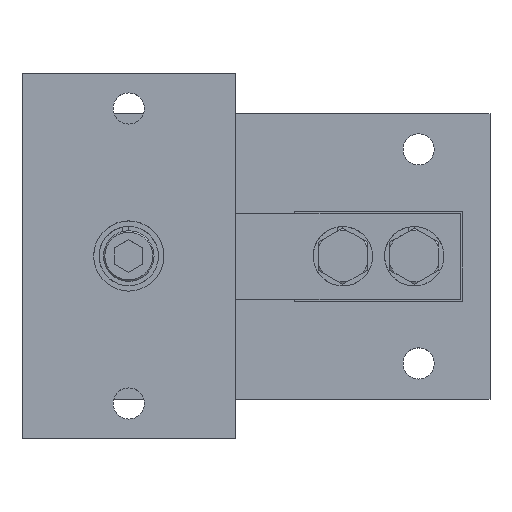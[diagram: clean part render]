
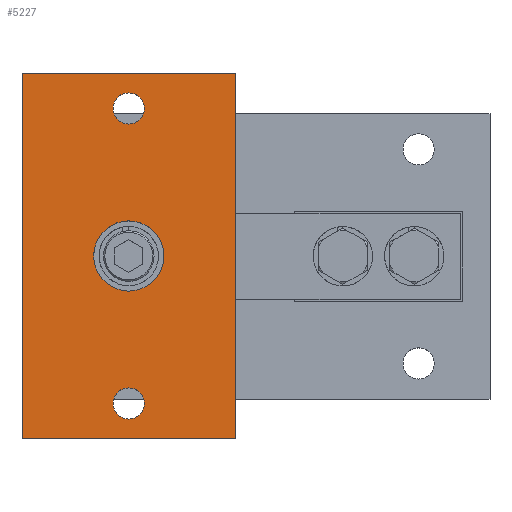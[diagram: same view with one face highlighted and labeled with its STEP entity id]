
A CAD part, top view. The second image highlights one B-rep face of the part: STEP entity #5227.
In plain terms, the highlighted planar face has unit normal (0, 0, 1).
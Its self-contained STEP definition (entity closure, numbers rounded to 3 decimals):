
#4790=DIRECTION('',(-1.,0.,0.));
#4791=VECTOR('',#4790,76.);
#4792=CARTESIAN_POINT('',(-14.37,65.,95.35));
#4793=LINE('',#4792,#4791);
#4794=DIRECTION('',(0.,1.,0.));
#4795=VECTOR('',#4794,130.);
#4796=CARTESIAN_POINT('',(-14.37,-65.,95.35));
#4797=LINE('',#4796,#4795);
#4798=DIRECTION('',(1.,0.,0.));
#4799=VECTOR('',#4798,76.);
#4800=CARTESIAN_POINT('',(-90.37,-65.,95.35));
#4801=LINE('',#4800,#4799);
#4802=DIRECTION('',(0.,-1.,0.));
#4803=VECTOR('',#4802,130.);
#4804=CARTESIAN_POINT('',(-90.37,65.,95.35));
#4805=LINE('',#4804,#4803);
#4806=CARTESIAN_POINT('',(-52.37,0.,95.35));
#4807=DIRECTION('',(0.,0.,1.));
#4808=DIRECTION('',(0.,-1.,0.));
#4809=AXIS2_PLACEMENT_3D('',#4806,#4807,#4808);
#4811=CARTESIAN_POINT('',(-52.37,0.,95.35));
#4812=DIRECTION('',(0.,0.,1.));
#4813=DIRECTION('',(0.,1.,0.));
#4814=AXIS2_PLACEMENT_3D('',#4811,#4812,#4813);
#4816=CARTESIAN_POINT('',(-52.37,52.5,95.35));
#4817=DIRECTION('',(0.,0.,1.));
#4818=DIRECTION('',(0.,-1.,0.));
#4819=AXIS2_PLACEMENT_3D('',#4816,#4817,#4818);
#4821=CARTESIAN_POINT('',(-52.37,52.5,95.35));
#4822=DIRECTION('',(0.,0.,1.));
#4823=DIRECTION('',(0.,1.,0.));
#4824=AXIS2_PLACEMENT_3D('',#4821,#4822,#4823);
#4826=CARTESIAN_POINT('',(-52.37,-52.5,95.35));
#4827=DIRECTION('',(0.,0.,1.));
#4828=DIRECTION('',(0.,-1.,0.));
#4829=AXIS2_PLACEMENT_3D('',#4826,#4827,#4828);
#4831=CARTESIAN_POINT('',(-52.37,-52.5,95.35));
#4832=DIRECTION('',(0.,0.,1.));
#4833=DIRECTION('',(0.,1.,0.));
#4834=AXIS2_PLACEMENT_3D('',#4831,#4832,#4833);
#4922=CARTESIAN_POINT('',(-14.37,65.,95.35));
#4923=CARTESIAN_POINT('',(-90.37,65.,95.35));
#4924=VERTEX_POINT('',#4922);
#4925=VERTEX_POINT('',#4923);
#4926=CARTESIAN_POINT('',(-90.37,-65.,95.35));
#4927=VERTEX_POINT('',#4926);
#4928=CARTESIAN_POINT('',(-14.37,-65.,95.35));
#4929=VERTEX_POINT('',#4928);
#4970=CARTESIAN_POINT('',(-52.37,-12.5,95.35));
#4971=CARTESIAN_POINT('',(-52.37,12.5,95.35));
#4972=VERTEX_POINT('',#4970);
#4973=VERTEX_POINT('',#4971);
#4986=CARTESIAN_POINT('',(-52.37,46.95,95.35));
#4987=CARTESIAN_POINT('',(-52.37,58.05,95.35));
#4988=VERTEX_POINT('',#4986);
#4989=VERTEX_POINT('',#4987);
#4990=CARTESIAN_POINT('',(-52.37,-58.05,95.35));
#4991=CARTESIAN_POINT('',(-52.37,-46.95,95.35));
#4992=VERTEX_POINT('',#4990);
#4993=VERTEX_POINT('',#4991);
#5196=CARTESIAN_POINT('',(-52.37,0.,95.35));
#5197=DIRECTION('',(0.,0.,1.));
#5198=DIRECTION('',(0.,-1.,0.));
#5199=AXIS2_PLACEMENT_3D('',#5196,#5197,#5198);
#5200=PLANE('',#5199);
#5201=ORIENTED_EDGE('',*,*,#5189,.F.);
#5202=ORIENTED_EDGE('',*,*,#5045,.F.);
#5204=ORIENTED_EDGE('',*,*,#5203,.F.);
#5206=ORIENTED_EDGE('',*,*,#5205,.F.);
#5207=EDGE_LOOP('',(#5201,#5202,#5204,#5206));
#5208=FACE_OUTER_BOUND('',#5207,.F.);
#5210=ORIENTED_EDGE('',*,*,#5209,.T.);
#5212=ORIENTED_EDGE('',*,*,#5211,.T.);
#5213=EDGE_LOOP('',(#5210,#5212));
#5214=FACE_BOUND('',#5213,.F.);
#5216=ORIENTED_EDGE('',*,*,#5215,.T.);
#5218=ORIENTED_EDGE('',*,*,#5217,.T.);
#5219=EDGE_LOOP('',(#5216,#5218));
#5220=FACE_BOUND('',#5219,.F.);
#5222=ORIENTED_EDGE('',*,*,#5221,.T.);
#5224=ORIENTED_EDGE('',*,*,#5223,.T.);
#5225=EDGE_LOOP('',(#5222,#5224));
#5226=FACE_BOUND('',#5225,.F.);
#5227=ADVANCED_FACE('',(#5208,#5214,#5220,#5226),#5200,.T.);
#4810=CIRCLE('',#4809,12.5);
#4815=CIRCLE('',#4814,12.5);
#4820=CIRCLE('',#4819,5.55);
#4825=CIRCLE('',#4824,5.55);
#4830=CIRCLE('',#4829,5.55);
#4835=CIRCLE('',#4834,5.55);
#5045=EDGE_CURVE('',#4929,#4924,#4797,.T.);
#5189=EDGE_CURVE('',#4924,#4925,#4793,.T.);
#5203=EDGE_CURVE('',#4927,#4929,#4801,.T.);
#5205=EDGE_CURVE('',#4925,#4927,#4805,.T.);
#5209=EDGE_CURVE('',#4972,#4973,#4810,.T.);
#5211=EDGE_CURVE('',#4973,#4972,#4815,.T.);
#5215=EDGE_CURVE('',#4988,#4989,#4820,.T.);
#5217=EDGE_CURVE('',#4989,#4988,#4825,.T.);
#5221=EDGE_CURVE('',#4992,#4993,#4830,.T.);
#5223=EDGE_CURVE('',#4993,#4992,#4835,.T.);
